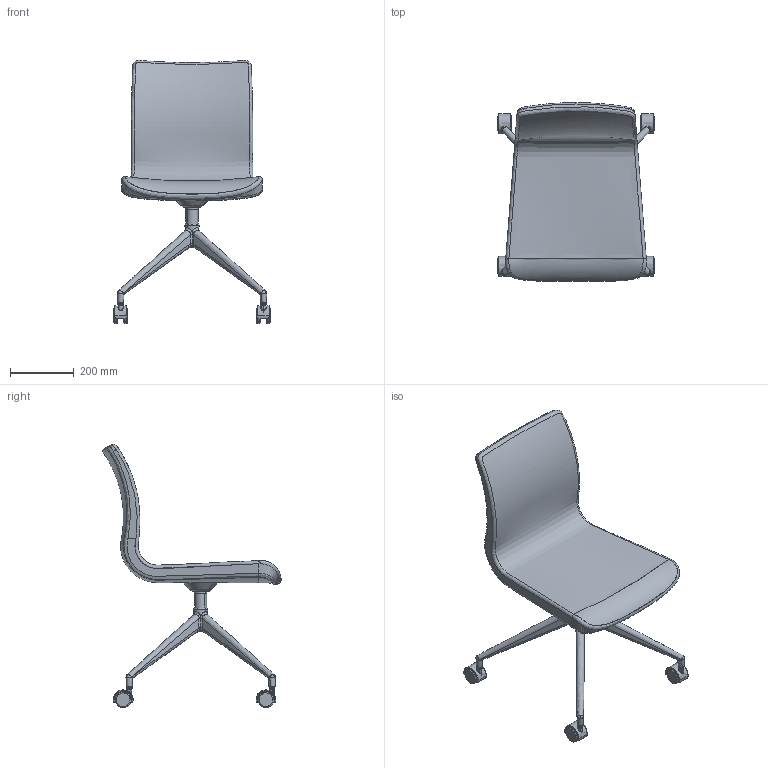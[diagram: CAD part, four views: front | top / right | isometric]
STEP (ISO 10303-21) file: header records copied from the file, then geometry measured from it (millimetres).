
FILE_DESCRIPTION(/* description */ (''),/* implementation_level */ '2;1');
FILE_NAME(/* name */ 'KINOSH~4',/* time_stamp */ '2019-07-19T10:28:22+09:00',/* author */ (''),/* organization */ (''),/* preprocessor_version */ 'ST-DEVELOPER v15',/* originating_system */ '',/* authorisation */ '');
FILE_SCHEMA (('AUTOMOTIVE_DESIGN'));
Length unit declared in the file: millimetre
Products named in the file (2): Document; ﾌﾞﾛｯｸ 23
Assembly tree (1 placements, depth 2):
  Document
    ﾌﾞﾛｯｸ 23
Bounding box: 489.89 x 558.78 x 823.58 mm (x, y, z)
Volume: 840089.9 mm3; surface area: 1089793.7 mm2
Topology: 13 solids, 20 shells, 810 faces, 2018 edges, 1142 vertices
Faces by surface type: bspline 681, plane 129
Entity records: 92876 total; most frequent: CARTESIAN_POINT 81969, ORIENTED_EDGE 3674, EDGE_CURVE 2013, VERTEX_POINT 1142, B_SPLINE_CURVE_WITH_KNOTS 1030, EDGE_LOOP 845, ADVANCED_FACE 810, FACE_OUTER_BOUND 810
